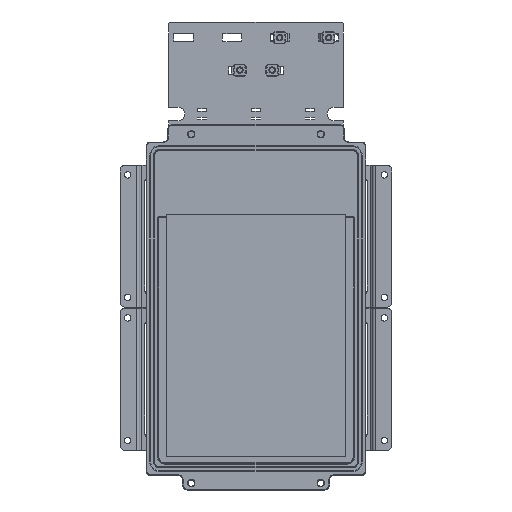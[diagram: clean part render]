
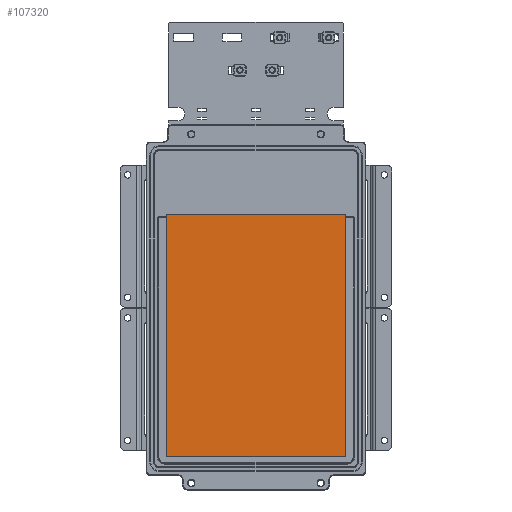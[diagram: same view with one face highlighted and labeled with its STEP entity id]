
A CAD part, front view. The second image highlights one B-rep face of the part: STEP entity #107320.
In plain terms, the highlighted planar face has unit normal (0, -1, 0).
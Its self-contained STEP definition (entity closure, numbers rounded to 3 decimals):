
#232 = CARTESIAN_POINT ( 'NONE',  ( -89.5, -29.5, -151. ) ) ;
#2100 = VECTOR ( 'NONE', #65440, 1000. ) ;
#4981 = PLANE ( 'NONE',  #100466 ) ;
#7242 = CARTESIAN_POINT ( 'NONE',  ( -89.5, -29.5, -151. ) ) ;
#21179 = ORIENTED_EDGE ( 'NONE', *, *, #82013, .F. ) ;
#22424 = EDGE_CURVE ( 'NONE', #68564, #36033, #67360, .T. ) ;
#23288 = CARTESIAN_POINT ( 'NONE',  ( 93.5, -29.5, -151. ) ) ;
#23739 = CARTESIAN_POINT ( 'NONE',  ( 93.5, -29.5, -151. ) ) ;
#24169 = DIRECTION ( 'NONE',  ( 0., 1., 0. ) ) ;
#33940 = EDGE_CURVE ( 'NONE', #104474, #36033, #132685, .T. ) ;
#34005 = LINE ( 'NONE', #23739, #2100 ) ;
#35242 = EDGE_LOOP ( 'NONE', ( #104700, #45222, #21179, #89824 ) ) ;
#36033 = VERTEX_POINT ( 'NONE', #82086 ) ;
#40125 = VECTOR ( 'NONE', #89285, 1000. ) ;
#42581 = LINE ( 'NONE', #232, #59277 ) ;
#45222 = ORIENTED_EDGE ( 'NONE', *, *, #33940, .F. ) ;
#47348 = CARTESIAN_POINT ( 'NONE',  ( 93.5, -29.5, -151. ) ) ;
#56258 = FACE_OUTER_BOUND ( 'NONE', #35242, .T. ) ;
#59277 = VECTOR ( 'NONE', #115249, 1000. ) ;
#59330 = DIRECTION ( 'NONE',  ( 1., 0., 0. ) ) ;
#65440 = DIRECTION ( 'NONE',  ( -1., 0., 0. ) ) ;
#67360 = LINE ( 'NONE', #97523, #40125 ) ;
#68564 = VERTEX_POINT ( 'NONE', #23288 ) ;
#70536 = VERTEX_POINT ( 'NONE', #7242 ) ;
#77800 = EDGE_CURVE ( 'NONE', #68564, #70536, #34005, .T. ) ;
#82013 = EDGE_CURVE ( 'NONE', #70536, #104474, #42581, .T. ) ;
#82086 = CARTESIAN_POINT ( 'NONE',  ( 93.5, -29.5, 96. ) ) ;
#89146 = DIRECTION ( 'NONE',  ( 0., 0., -1. ) ) ;
#89285 = DIRECTION ( 'NONE',  ( 0., 0., 1. ) ) ;
#89824 = ORIENTED_EDGE ( 'NONE', *, *, #77800, .F. ) ;
#97523 = CARTESIAN_POINT ( 'NONE',  ( 93.5, -29.5, -151. ) ) ;
#100466 = AXIS2_PLACEMENT_3D ( 'NONE', #47348, #24169, #89146 ) ;
#101108 = CARTESIAN_POINT ( 'NONE',  ( -89.5, -29.5, 96. ) ) ;
#103691 = VECTOR ( 'NONE', #59330, 1000. ) ;
#104474 = VERTEX_POINT ( 'NONE', #130156 ) ;
#104700 = ORIENTED_EDGE ( 'NONE', *, *, #22424, .T. ) ;
#107320 = ADVANCED_FACE ( 'NONE', ( #56258 ), #4981, .F. ) ;
#115249 = DIRECTION ( 'NONE',  ( 0., 0., 1. ) ) ;
#130156 = CARTESIAN_POINT ( 'NONE',  ( -89.5, -29.5, 96. ) ) ;
#132685 = LINE ( 'NONE', #101108, #103691 ) ;
